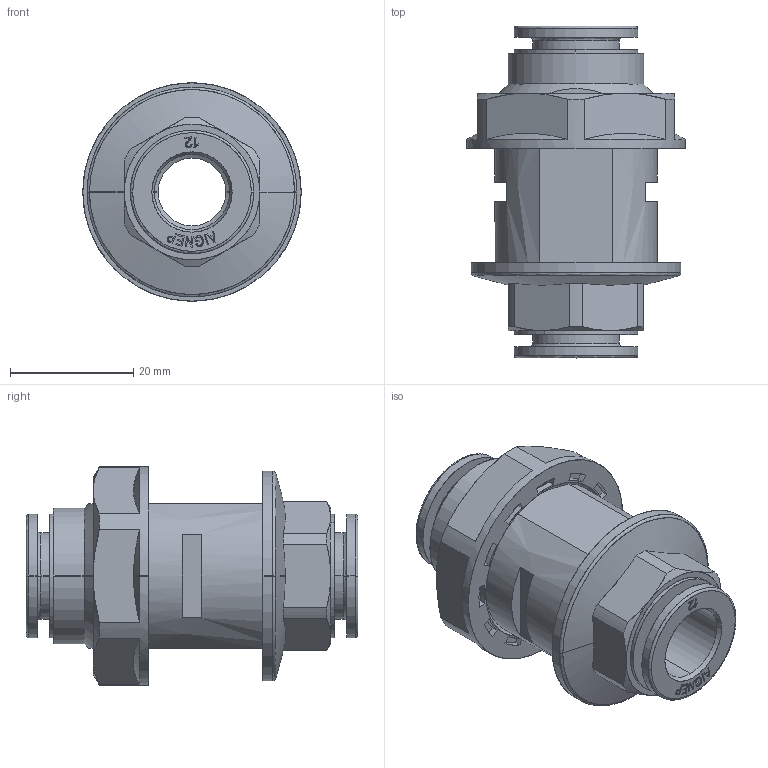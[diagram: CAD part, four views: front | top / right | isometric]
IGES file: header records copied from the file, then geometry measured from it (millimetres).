
Start section: SolidWorks IGES file using analytic representation for surfaces
Global section: file name: K:\Disegni Esecutivi\SERIE 54000\54000-Assiemi\54050\Iges\5405000005A.IGS; native system: SolidWorks 2020; preprocessor: SolidWorks 2020; author: CAD13; date: 240919.095334; units: millimetre
Bounding box: 35.4 x 53.8 x 35.4 mm (x, y, z)
Surface area: 9705.7 mm2 (no closed solid volume)
Topology: 0 solids, 0 shells, 366 faces, 3592 edges, 3592 vertices
Faces by surface type: bspline 269, revolution 97
